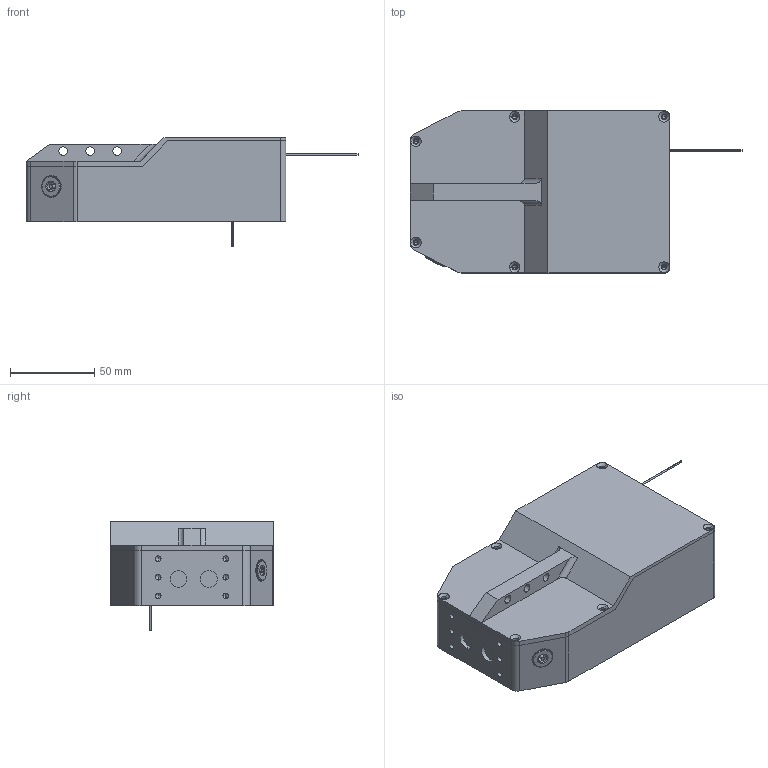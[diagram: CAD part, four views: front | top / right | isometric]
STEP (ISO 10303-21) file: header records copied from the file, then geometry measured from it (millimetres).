
FILE_DESCRIPTION (( 'STEP AP203' ), '1' );
FILE_NAME ('聆擒等啋.STEP', '2025-01-22T10:19:07', ( '' ), ( '' ), 'SwSTEP 2.0', 'SolidWorks 2012', '' );
FILE_SCHEMA (( 'CONFIG_CONTROL_DESIGN' ));
Length unit declared in the file: millimetre
Products named in the file (20): 敦諳; 諷秶啣蚾饜; DC5521脣釱; 20250116-04-聆擒等啋奻裔; WJ124-3.81-3P; 噤砃嫖盄; 聆擒等啋; ISO 4762 M3 x 8 --- 8N_ISO 4762 M3 x 8 --- 8N; WJ124-3.81-2P; C7499337; 485耀輸; 毀扞產薛; 憤腴芛蹟隊M4-25; 諷秶菁唳; ESP32-S3; CJ-HLA30-噤砃; 20250116-03-毀扞噩殤; 20250116-02-假蚾啣; 20250116-01-聆擒等啋俋褲; CJ-HLA30
Assembly tree (27 placements, depth 3):
  聆擒等啋
    20250116-01-聆擒等啋俋褲
    CJ-HLA30
    CJ-HLA30-噤砃
    20250116-02-假蚾啣
    20250116-03-毀扞噩殤
    毀扞產薛
    憤腴芛蹟隊M4-25  x4
    諷秶啣蚾饜
      諷秶菁唳
      ESP32-S3
      485耀輸  x2
      C7499337  x2
      WJ124-3.81-2P
      WJ124-3.81-3P  x2
    20250116-04-聆擒等啋奻裔
    敦諳  x2
    DC5521脣釱
    ISO 4762 M3 x 8 --- 8N_ISO 4762 M3 x 8 --- 8N  x2
    噤砃嫖盄
Bounding box: 196.7 x 96 x 64.52 mm (x, y, z)
Volume: 328375.9 mm3; surface area: 170060.5 mm2
Topology: 28 solids, 29 shells, 3012 faces, 7804 edges, 5140 vertices
Faces by surface type: plane 1801, cylinder 671, bspline 456, cone 68, torus 16
Entity records: 82673 total; most frequent: CARTESIAN_POINT 27252, ORIENTED_EDGE 11394, DIRECTION 10081, EDGE_CURVE 5697, VERTEX_POINT 3771, LINE 3737, VECTOR 3737, AXIS2_PLACEMENT_3D 3172
